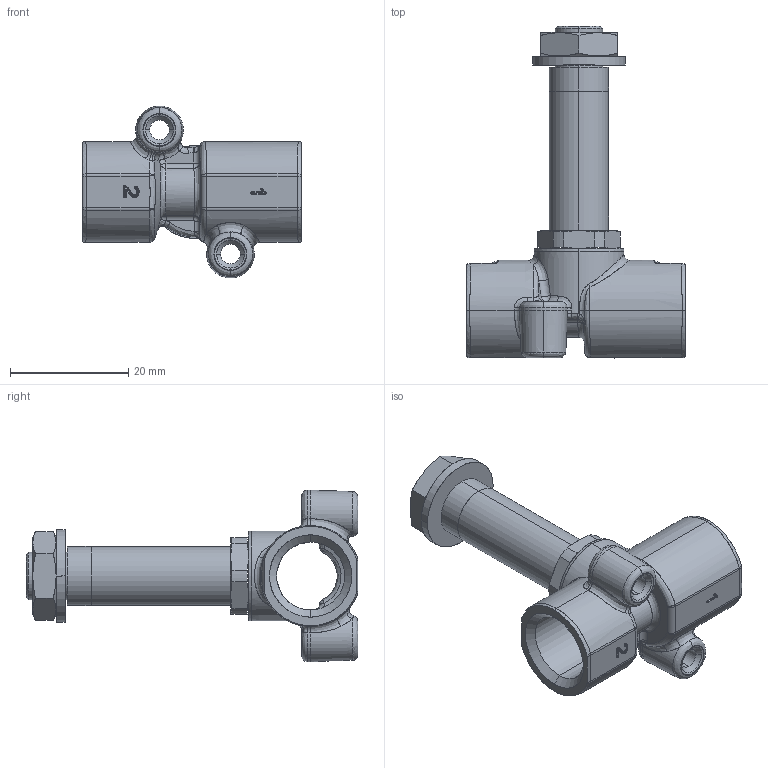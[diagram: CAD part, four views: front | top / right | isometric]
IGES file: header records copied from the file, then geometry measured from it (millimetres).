
Start section: SolidWorks IGES file using analytic representation for surfaces
Global section: file name: K:\Disegni Esecutivi\Elettrovalvole per fluidi\AZIONE DIRETTA CW617N\assiemi file PARTE\IGES + STEP\01F03115N0.IGS; native system: SolidWorks 2015; preprocessor: SolidWorks 2015; author: cad06; date: 150909.151804; units: millimetre
Bounding box: 37 x 56.1 x 29.06 mm (x, y, z)
Surface area: 5593.8 mm2 (no closed solid volume)
Topology: 0 solids, 0 shells, 289 faces, 3062 edges, 3048 vertices
Faces by surface type: bspline 181, revolution 108
